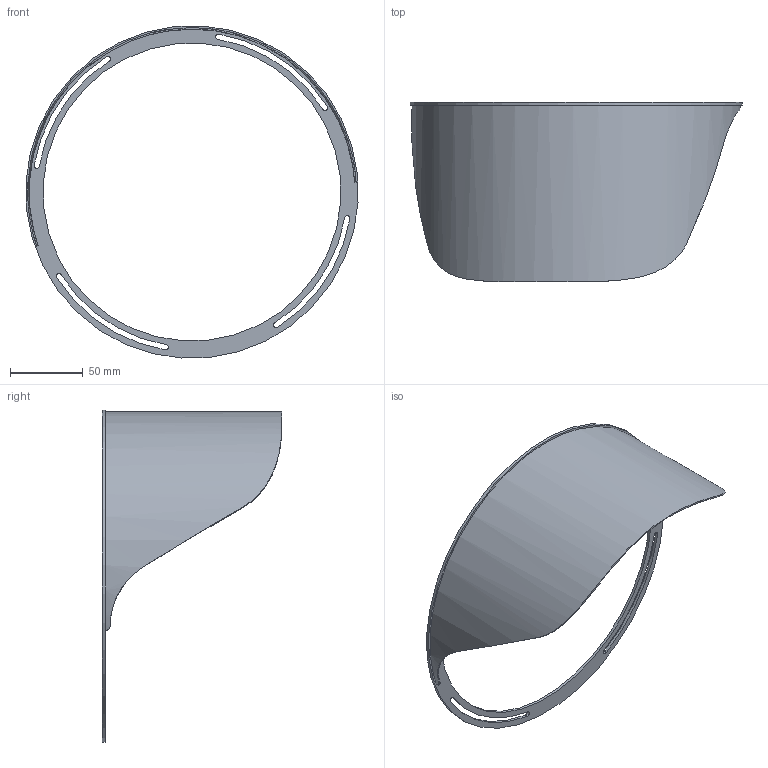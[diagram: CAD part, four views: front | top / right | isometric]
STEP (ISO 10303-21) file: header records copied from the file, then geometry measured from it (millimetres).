
FILE_DESCRIPTION(/* description */ ('Unknown'),/* implementation_level */ '2;1');
FILE_NAME(/* name */ 'Halt TOPHAT-M',/* time_stamp */ '2022-08-22T08:37:13+02:00',/* author */ ('Unknown'),/* organization */ ('Unknown'),/* preprocessor_version */ 'ST-DEVELOPER v18.102',/* originating_system */ 'Solid Edge',/* authorisation */ 'Unknown');
FILE_SCHEMA (('AUTOMOTIVE_DESIGN {1 0 10303 214 3 1 1}'));
Length unit declared in the file: millimetre
Products named in the file (1): 11431119 Halt TOPHAT-M
Bounding box: 228.72 x 123.67 x 228.72 mm (x, y, z)
Volume: 44436.6 mm3; surface area: 80657.4 mm2
Topology: 2 solids, 2 shells, 79 faces, 226 edges, 151 vertices
Faces by surface type: plane 36, cylinder 34, bspline 7, cone 1, sphere 1
Full cylindrical faces by diameter (mm): 205.3 x1, 229.2 x1
Entity records: 3386 total; most frequent: CARTESIAN_POINT 1267, ORIENTED_EDGE 446, DIRECTION 413, EDGE_CURVE 223, AXIS2_PLACEMENT_3D 153, VERTEX_POINT 150, LINE 107, VECTOR 107
